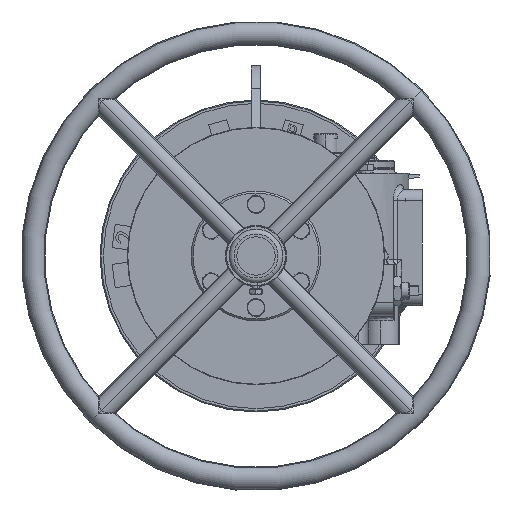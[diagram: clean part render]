
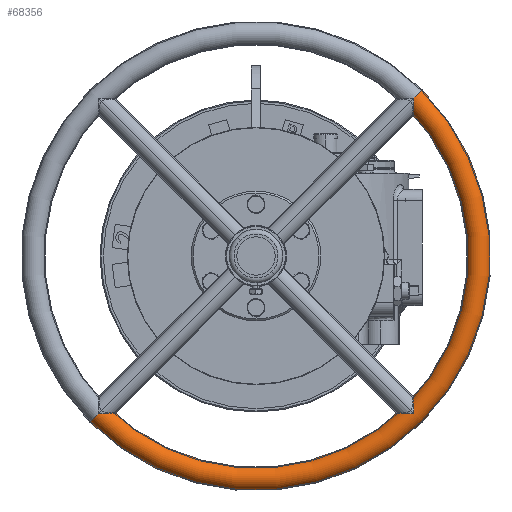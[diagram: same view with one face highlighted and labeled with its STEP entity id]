
A CAD part, left-side view. The second image highlights one B-rep face of the part: STEP entity #68356.
In plain terms, the highlighted toroidal (fillet/blend) face has major radius 237.5 mm and minor radius 12.5 mm.
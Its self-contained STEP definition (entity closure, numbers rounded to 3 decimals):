
#2259 = AXIS2_PLACEMENT_3D ( 'NONE', #46682, #32915, #51629 ) ;
#7109 = CARTESIAN_POINT ( 'NONE',  ( -956.723, 194.395, -157.099 ) ) ;
#9221 = VERTEX_POINT ( 'NONE', #7109 ) ;
#9342 = EDGE_CURVE ( 'NONE', #9221, #47270, #57843, .T. ) ;
#9726 = CARTESIAN_POINT ( 'NONE',  ( -956.723, 35.296, 2. ) ) ;
#9747 = AXIS2_PLACEMENT_3D ( 'NONE', #14620, #40967, #88221 ) ;
#10129 = CIRCLE ( 'NONE', #42843, 250. ) ;
#10617 = FACE_OUTER_BOUND ( 'NONE', #36964, .T. ) ;
#12026 = CIRCLE ( 'NONE', #61835, 12.5 ) ;
#14620 = CARTESIAN_POINT ( 'NONE',  ( -956.723, 35.296, 2. ) ) ;
#23531 = EDGE_CURVE ( 'NONE', #55239, #58443, #12026, .T. ) ;
#26136 = CARTESIAN_POINT ( 'NONE',  ( -956.723, -132.642, 169.938 ) ) ;
#26414 = ORIENTED_EDGE ( 'NONE', *, *, #23531, .F. ) ;
#29496 = CARTESIAN_POINT ( 'NONE',  ( -956.723, 212.072, -174.777 ) ) ;
#30694 = DIRECTION ( 'NONE',  ( 0., -0.707, 0.707 ) ) ;
#31596 = DIRECTION ( 'NONE',  ( 1., 0., 0. ) ) ;
#32915 = DIRECTION ( 'NONE',  ( 0., -0.707, -0.707 ) ) ;
#34165 = EDGE_CURVE ( 'NONE', #55239, #9221, #36814, .T. ) ;
#34937 = DIRECTION ( 'NONE',  ( 1., 0., 0. ) ) ;
#36814 = CIRCLE ( 'NONE', #9747, 225. ) ;
#36964 = EDGE_LOOP ( 'NONE', ( #80368, #26414, #77639, #46912 ) ) ;
#40967 = DIRECTION ( 'NONE',  ( 1., 0., 0. ) ) ;
#42843 = AXIS2_PLACEMENT_3D ( 'NONE', #61233, #34937, #83462 ) ;
#46509 = CARTESIAN_POINT ( 'NONE',  ( -956.723, -123.803, 161.099 ) ) ;
#46682 = CARTESIAN_POINT ( 'NONE',  ( -956.723, 203.233, -165.938 ) ) ;
#46912 = ORIENTED_EDGE ( 'NONE', *, *, #9342, .T. ) ;
#47270 = VERTEX_POINT ( 'NONE', #29496 ) ;
#51162 = EDGE_CURVE ( 'NONE', #58443, #47270, #10129, .T. ) ;
#51629 = DIRECTION ( 'NONE',  ( 0., 0.707, -0.707 ) ) ;
#55239 = VERTEX_POINT ( 'NONE', #46509 ) ;
#57843 = CIRCLE ( 'NONE', #2259, 12.5 ) ;
#58443 = VERTEX_POINT ( 'NONE', #75435 ) ;
#60430 = DIRECTION ( 'NONE',  ( 0., -0.707, 0.707 ) ) ;
#61233 = CARTESIAN_POINT ( 'NONE',  ( -956.723, 35.296, 2. ) ) ;
#61835 = AXIS2_PLACEMENT_3D ( 'NONE', #26136, #74693, #60430 ) ;
#68356 = ADVANCED_FACE ( 'NONE', ( #10617 ), #80970, .T. ) ;
#69764 = AXIS2_PLACEMENT_3D ( 'NONE', #9726, #31596, #30694 ) ;
#74693 = DIRECTION ( 'NONE',  ( 0., 0.707, 0.707 ) ) ;
#75435 = CARTESIAN_POINT ( 'NONE',  ( -956.723, -141.481, 178.777 ) ) ;
#77639 = ORIENTED_EDGE ( 'NONE', *, *, #34165, .T. ) ;
#80368 = ORIENTED_EDGE ( 'NONE', *, *, #51162, .F. ) ;
#80970 = TOROIDAL_SURFACE ( 'NONE', #69764, 237.5, 12.5 ) ;
#83462 = DIRECTION ( 'NONE',  ( 0., 1., 0. ) ) ;
#88221 = DIRECTION ( 'NONE',  ( 0., 1., 0. ) ) ;
